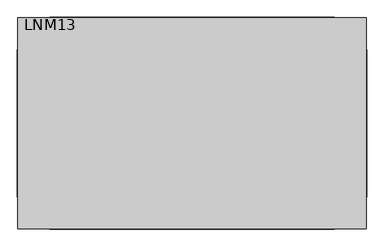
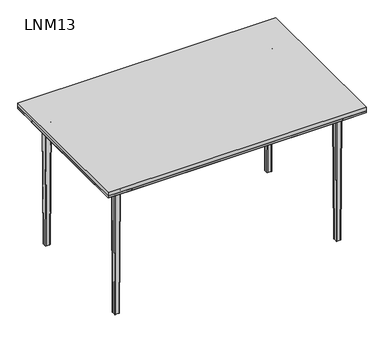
"""IFC4 building model written with IfcOpenShell, lengths in millimetres: furniture geometry, Contact Desks and Operative Twin Desks : LNM13."""

from ifc_helpers import new_model, si_unit, point, frame, origin, place, context, project, spatial, polyline, circle_curve, ellipse_curve, trimmed, outline, extrude, faceted_brep, source, transform, mapped, element, save
from ifc_brep_helpers import plane_surface, cylinder_surface, revolved_surface, extruded_surface, advanced_brep


def lnm13_1a002fa4(model_context):
    return source(origin(), model_context, "Body", "SolidModel", [
        extrude(outline(polyline([(660.0, -280.0), (660.0, -400.0), (540.0, -400.0), (540.0, -280.0), (660.0, -280.0)])), frame((0.0, 0.0, 710.0), z_axis=(0.0, 0.0, 1.0), x_axis=(1.0, 0.0, 0.0)), (0.0, 0.0, 1.0), 10.0),
        extrude(outline(polyline([(660.0, 400.0), (660.0, 280.0), (540.0, 280.0), (540.0, 400.0), (660.0, 400.0)])), frame((0.0, 0.0, 710.0), z_axis=(0.0, 0.0, 1.0), x_axis=(1.0, 0.0, 0.0)), (0.0, 0.0, 1.0), 10.0),
        extrude(outline(polyline([(-540.0, 400.0), (-540.0, 280.0), (-660.0, 280.0), (-660.0, 400.0), (-540.0, 400.0)])), frame((0.0, 0.0, 710.0), z_axis=(0.0, 0.0, 1.0), x_axis=(1.0, 0.0, 0.0)), (0.0, 0.0, 1.0), 10.0),
        extrude(outline(polyline([(-660.0, 280.0), (-540.0, 280.0), (-540.0, -280.0), (-660.0, -280.0), (-660.0, 280.0)])), frame((0.0, 0.0, 710.0), z_axis=(0.0, 0.0, 1.0), x_axis=(1.0, 0.0, 0.0)), (0.0, 0.0, 1.0), 10.0),
        extrude(outline(polyline([(540.0, 280.0), (660.0, 280.0), (660.0, -280.0), (540.0, -280.0), (540.0, 280.0)])), frame((0.0, 0.0, 710.0), z_axis=(0.0, 0.0, 1.0), x_axis=(1.0, 0.0, 0.0)), (0.0, 0.0, 1.0), 10.0),
        extrude(outline(polyline([(540.0, -280.0), (540.0, -400.0), (-540.0, -400.0), (-540.0, -280.0), (540.0, -280.0)])), frame((0.0, 0.0, 710.0), z_axis=(0.0, 0.0, 1.0), x_axis=(1.0, 0.0, 0.0)), (0.0, 0.0, 1.0), 10.0),
        extrude(outline(polyline([(540.0, 400.0), (540.0, 280.0), (-540.0, 280.0), (-540.0, 400.0), (540.0, 400.0)])), frame((0.0, 0.0, 710.0), z_axis=(0.0, 0.0, 1.0), x_axis=(1.0, 0.0, 0.0)), (0.0, 0.0, 1.0), 10.0),
        extrude(outline(polyline([(710.0, 540.0), (675.0, 540.0), (675.0, 588.7129935), (710.0, 661.7129935), (710.0, 540.0)])), frame((0.0, -280.0, 0.0), z_axis=(0.0, 1.0, 0.0), x_axis=(0.0, 0.0, 1.0)), (0.0, 0.0, 1.0), 560.0),
        extrude(outline(polyline([(710.0, -540.0), (710.0, -661.7129935), (675.0, -588.7129935), (675.0, -540.0), (710.0, -540.0)])), frame((0.0, -280.0, 0.0), z_axis=(0.0, 1.0, 0.0), x_axis=(0.0, 0.0, 1.0)), (0.0, 0.0, 1.0), 560.0),
        extrude(outline(polyline([(280.0, 710.0), (401.7129935, 710.0), (328.7129935, 675.0), (280.0, 675.0), (280.0, 710.0)])), frame((-540.0, 0.0, 0.0), z_axis=(1.0, 0.0, 0.0), x_axis=(0.0, 1.0, 0.0)), (0.0, 0.0, 1.0), 1080.0),
        extrude(outline(polyline([(-280.0, 710.0), (-280.0, 675.0), (-328.7129935, 675.0), (-401.7129935, 710.0), (-280.0, 710.0)])), frame((-540.0, 0.0, 0.0), z_axis=(1.0, 0.0, 0.0), x_axis=(0.0, 1.0, 0.0)), (0.0, 0.0, 1.0), 1080.0),
        faceted_brep([(-540.0, 280.0, 710.0), (-540.0, 400.0, 710.0), (-660.0, 400.0, 710.0), (-660.0, 280.0, 710.0), (-540.0, 280.0, 675.0), (-587.0, 280.0, 675.0), (-587.0, 327.0, 675.0), (-540.0, 327.0, 675.0)], [[[0, 1, 2, 3]], [[4, 5, 6, 7]], [[1, 0, 4, 7]], [[0, 3, 5, 4]], [[6, 2, 1, 7]], [[2, 6, 5, 3]]]),
        advanced_brep(
        [(-547.0, 295.0, 675.0), (-547.0, 319.0, 675.0), (-555.0, 327.0, 675.0), (-579.0, 327.0, 675.0), (-587.0, 319.0, 675.0), (-587.0, 295.0, 675.0), (-579.0, 287.0, 675.0), (-555.0, 287.0, 675.0), (-579.0, 292.0, 665.0), (-582.0, 295.0, 665.0), (-582.0, 319.0, 665.0), (-579.0, 322.0, 665.0), (-555.0, 322.0, 665.0), (-552.0, 319.0, 665.0), (-552.0, 295.0, 665.0), (-555.0, 292.0, 665.0), (-547.0, 295.0, 672.0), (-547.0, 319.0, 672.0), (-555.0, 327.0, 672.0), (-579.0, 327.0, 672.0), (-587.0, 319.0, 672.0), (-587.0, 295.0, 672.0), (-579.0, 287.0, 672.0), (-555.0, 287.0, 672.0)],
        [
            (0, 1),
            (1, 2, circle_curve(frame((-555.0, 319.0, 675.0), z_axis=(0.0, 0.0, 1.0), x_axis=(0.0, -1.0000000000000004, 0.0)), 8.0)),
            (2, 3),
            (3, 4, circle_curve(frame((-579.0, 319.0, 675.0), z_axis=(0.0, 0.0, 1.0), x_axis=(0.0, -1.0000000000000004, 0.0)), 8.0)),
            (4, 5),
            (5, 6, circle_curve(frame((-579.0, 295.0, 675.0), z_axis=(0.0, 0.0, 1.0), x_axis=(0.0, -1.0000000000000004, 0.0)), 8.0)),
            (6, 7),
            (7, 0, circle_curve(frame((-555.0, 295.0, 675.0), z_axis=(0.0, 0.0, 1.0), x_axis=(0.0, -1.0000000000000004, 0.0)), 8.0)),
            (8, 9, circle_curve(frame((-579.0, 295.0, 665.0), z_axis=(0.0, 0.0, -1.0), x_axis=(0.0, -1.0000000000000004, 0.0)), 3.0)),
            (9, 10),
            (10, 11, circle_curve(frame((-579.0, 319.0, 665.0), z_axis=(0.0, 0.0, -1.0), x_axis=(-1.0000000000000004, 0.0, 0.0)), 3.0)),
            (11, 12),
            (12, 13, circle_curve(frame((-555.0, 319.0, 665.0), z_axis=(0.0, 0.0, -1.0), x_axis=(0.0, 1.0000000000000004, 0.0)), 3.0)),
            (13, 14),
            (14, 15, circle_curve(frame((-555.0, 295.0, 665.0), z_axis=(0.0, 0.0, -1.0), x_axis=(1.0000000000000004, 0.0, 0.0)), 3.0)),
            (15, 8),
            (0, 16),
            (16, 17),
            (17, 1),
            (17, 18, circle_curve(frame((-555.0, 319.0, 672.0), z_axis=(0.0, 0.0, 1.0), x_axis=(0.0, -1.0000000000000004, 0.0)), 8.0)),
            (18, 2),
            (18, 19),
            (19, 3),
            (19, 20, circle_curve(frame((-579.0, 319.0, 672.0), z_axis=(0.0, 0.0, 1.0), x_axis=(0.0, -1.0000000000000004, 0.0)), 8.0)),
            (20, 4),
            (20, 21),
            (21, 5),
            (21, 22, circle_curve(frame((-579.0, 295.0, 672.0), z_axis=(0.0, 0.0, 1.0), x_axis=(0.0, -1.0000000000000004, 0.0)), 8.0)),
            (22, 6),
            (22, 23),
            (23, 7),
            (23, 16, circle_curve(frame((-555.0, 295.0, 672.0), z_axis=(0.0, 0.0, 1.0), x_axis=(0.0, -1.0000000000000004, 0.0)), 8.0)),
            (21, 9, circle_curve(frame((-590.9600528, 295.0, 663.8856766), z_axis=(0.0, 1.0000000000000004, 0.0), x_axis=(-1.0000000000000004, 0.0, 0.0)), 9.0290787)),
            (8, 22, circle_curve(frame((-579.0, 283.0399472, 663.8856766), z_axis=(1.0000000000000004, 0.0, 0.0), x_axis=(0.0, -1.0000000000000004, 0.0)), 9.0290787)),
            (20, 10, circle_curve(frame((-590.9600528, 319.0, 663.8856766), z_axis=(0.0, 1.0, 0.0), x_axis=(-1.0000000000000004, 0.0, 0.0)), 9.0290787)),
            (19, 11, circle_curve(frame((-579.0, 330.9600528, 663.8856766), z_axis=(1.0000000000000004, 0.0, 0.0), x_axis=(0.0, 1.0000000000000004, 0.0)), 9.0290787)),
            (18, 12, circle_curve(frame((-555.0, 330.9600528, 663.8856766), z_axis=(1.0, 0.0, 0.0), x_axis=(0.0, 1.0000000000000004, 0.0)), 9.0290787)),
            (17, 13, circle_curve(frame((-543.0399472, 319.0, 663.8856766), z_axis=(0.0, -1.0000000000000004, 0.0), x_axis=(1.0000000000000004, 0.0, 0.0)), 9.0290787)),
            (16, 14, circle_curve(frame((-543.0399472, 295.0, 663.8856766), z_axis=(0.0, -1.0, 0.0), x_axis=(1.0000000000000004, 0.0, 0.0)), 9.0290787)),
            (23, 15, circle_curve(frame((-555.0, 283.0399472, 663.8856766), z_axis=(-1.0000000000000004, 0.0, 0.0), x_axis=(0.0, -1.0000000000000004, 0.0)), 9.0290787)),
        ],
        [
            plane_surface(frame((-547.0, 980.663284, 675.0), z_axis=(0.0, 0.0, 1.0), x_axis=(0.0, 1.0, 0.0))),
            plane_surface(frame((-547.0, 980.663284, 665.0), z_axis=(0.0, 0.0, -1.0), x_axis=(0.0, -1.0, 0.0))),
            plane_surface(frame((-547.0, 295.0, 675.0), z_axis=(1.0, 0.0, 0.0), x_axis=(0.0, 0.0, -1.0))),
            cylinder_surface(frame((-555.0, 319.0, 665.0), z_axis=(0.0, 0.0, 1.0), x_axis=(0.0, -1.0000000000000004, 0.0)), 8.0),
            plane_surface(frame((-555.0, 327.0, 675.0), z_axis=(0.0, 1.0, 0.0), x_axis=(0.0, 0.0, -1.0))),
            cylinder_surface(frame((-579.0, 319.0, 665.0), z_axis=(0.0, 0.0, 1.0), x_axis=(0.0, -1.0000000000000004, 0.0)), 8.0),
            plane_surface(frame((-587.0, 319.0, 675.0), z_axis=(-1.0, 0.0, 0.0), x_axis=(0.0, 0.0, -1.0))),
            cylinder_surface(frame((-579.0, 295.0, 665.0), z_axis=(0.0, 0.0, 1.0), x_axis=(0.0, -1.0000000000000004, 0.0)), 8.0),
            plane_surface(frame((-579.0, 287.0, 675.0), z_axis=(0.0, -1.0, 0.0), x_axis=(0.0, 0.0, -1.0))),
            cylinder_surface(frame((-555.0, 295.0, 665.0), z_axis=(0.0, 0.0, 1.0), x_axis=(0.0, -1.0000000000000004, 0.0)), 8.0),
            revolved_surface(trimmed(ellipse_curve(frame((-579.0, 283.0399472, 663.8856766), z_axis=(-1.0000000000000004, 0.0, 0.0), x_axis=(0.0, -1.0000000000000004, 0.0)), 9.0290787, 9.0290787), [point((-579.0, 287.0, 672.0))], [point((-579.0, 292.0, 665.0))], True, "CARTESIAN"), (-579.0, 295.0, 0.0), (0.0, 0.0, -1.0)),
            revolved_surface(polyline([(-599.9891315, 295.0, 663.8856766), (-599.9891315, 319.0, 663.8856766)]), (-590.9600528, 295.0, 663.8856766), (0.0, -1.0000000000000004, 0.0)),
            revolved_surface(trimmed(ellipse_curve(frame((-590.9600528, 319.0, 663.8856766), z_axis=(0.0, 1.0000000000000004, 0.0), x_axis=(-1.0000000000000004, 0.0, 0.0)), 9.0290787, 9.0290787), [point((-587.0, 319.0, 672.0))], [point((-582.0, 319.0, 665.0))], True, "CARTESIAN"), (-579.0, 319.0, 0.0), (0.0, 0.0, -1.0)),
            revolved_surface(polyline([(-579.0, 339.98913150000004, 663.8856766), (-555.0, 339.98913150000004, 663.8856766)]), (-579.0, 330.9600528, 663.8856766), (-1.0000000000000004, 0.0, 0.0)),
            revolved_surface(trimmed(ellipse_curve(frame((-555.0, 330.9600528, 663.8856766), z_axis=(1.0000000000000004, 0.0, 0.0), x_axis=(0.0, 1.0000000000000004, 0.0)), 9.0290787, 9.0290787), [point((-555.0, 327.0, 672.0))], [point((-555.0, 322.0, 665.0))], True, "CARTESIAN"), (-555.0, 319.0, 0.0), (0.0, 0.0, -1.0)),
            revolved_surface(polyline([(-534.0108685, 319.0, 663.8856766), (-534.0108685, 295.0, 663.8856766)]), (-543.0399472, 319.0, 663.8856766), (0.0, 1.0000000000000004, 0.0)),
            revolved_surface(trimmed(ellipse_curve(frame((-543.0399472, 295.0, 663.8856766), z_axis=(0.0, -1.0000000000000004, 0.0), x_axis=(1.0000000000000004, 0.0, 0.0)), 9.0290787, 9.0290787), [point((-547.0, 295.0, 672.0))], [point((-552.0, 295.0, 665.0))], True, "CARTESIAN"), (-555.0, 295.0, 0.0), (0.0, 0.0, -1.0)),
            revolved_surface(polyline([(-555.0, 274.01086849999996, 663.8856766), (-579.0, 274.01086849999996, 663.8856766)]), (-555.0, 283.0399472, 663.8856766), (1.0000000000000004, 0.0, 0.0)),
        ],
        [
            (0, [[1, 2, 3, 4, 5, 6, 7, 8]]),
            (1, [[9, 10, 11, 12, 13, 14, 15, 16]]),
            (2, [[-1, 17, 18, 19]]),
            (3, [[-2, -19, 20, 21]]),
            (4, [[-3, -21, 22, 23]]),
            (5, [[-4, -23, 24, 25]]),
            (6, [[-5, -25, 26, 27]]),
            (7, [[-6, -27, 28, 29]]),
            (8, [[-7, -29, 30, 31]]),
            (9, [[-8, -31, 32, -17]]),
            (10, [[33, -9, 34, -28]]),
            (11, [[-33, -26, 35, -10]]),
            (12, [[-35, -24, 36, -11]]),
            (13, [[-36, -22, 37, -12]]),
            (14, [[-37, -20, 38, -13]]),
            (15, [[-38, -18, 39, -14]]),
            (16, [[-39, -32, 40, -15]]),
            (17, [[-34, -16, -40, -30]]),
        ],
    ),
        advanced_brep(
        [(-579.0, 322.0, 665.0), (-582.0, 319.0, 665.0), (-582.0, 295.0, 665.0), (-579.0, 292.0, 665.0), (-555.0, 292.0, 665.0), (-552.0, 295.0, 665.0), (-552.0, 319.0, 665.0), (-555.0, 322.0, 665.0), (-576.0, 319.0, 0.0), (-558.0, 319.0, 0.0), (-555.0, 316.0, 0.0), (-555.0, 298.0, 0.0), (-558.0, 295.0, 0.0), (-576.0, 295.0, 0.0), (-579.0, 298.0, 0.0), (-579.0, 316.0, 0.0)],
        [
            (0, 1, circle_curve(frame((-579.0, 319.0, 665.0), z_axis=(0.0, 0.0, 1.0), x_axis=(0.0, -1.0, 0.0)), 3.0)),
            (1, 2),
            (2, 3, circle_curve(frame((-579.0, 295.0, 665.0), z_axis=(0.0, 0.0, 1.0), x_axis=(0.0, -1.0, 0.0)), 3.0)),
            (3, 4),
            (4, 5, circle_curve(frame((-555.0, 295.0, 665.0), z_axis=(0.0, 0.0, 1.0), x_axis=(0.0, -1.0, 0.0)), 3.0)),
            (5, 6),
            (6, 7, circle_curve(frame((-555.0, 319.0, 665.0), z_axis=(0.0, 0.0, 1.0), x_axis=(0.0, -1.0, 0.0)), 3.0)),
            (7, 0),
            (8, 9),
            (9, 10, circle_curve(frame((-558.0, 316.0, 0.0), z_axis=(0.0, 0.0, -1.0), x_axis=(0.0, -1.0, 0.0)), 3.0)),
            (10, 11),
            (11, 12, circle_curve(frame((-558.0, 298.0, 0.0), z_axis=(0.0, 0.0, -1.0), x_axis=(0.0, -1.0, 0.0)), 3.0)),
            (12, 13),
            (13, 14, circle_curve(frame((-576.0, 298.0, 0.0), z_axis=(0.0, 0.0, -1.0), x_axis=(0.0, -1.0, 0.0)), 3.0)),
            (14, 15),
            (15, 8, circle_curve(frame((-576.0, 316.0, 0.0), z_axis=(0.0, 0.0, -1.0), x_axis=(0.0, -1.0, 0.0)), 3.0)),
            (15, 1),
            (0, 8),
            (14, 2),
            (13, 3),
            (12, 4),
            (11, 5),
            (10, 6),
            (9, 7),
        ],
        [
            plane_surface(frame((-567.0, 307.0, 665.0), z_axis=(0.0, 0.0, 1.0), x_axis=(0.0, 1.0, 0.0))),
            plane_surface(frame((-567.0, 307.0, 0.0), z_axis=(0.0, 0.0, -1.0), x_axis=(0.0, 1.0, 0.0))),
            extruded_surface(trimmed(circle_curve(frame((-576.0, 316.0, 0.0), z_axis=(0.0, 0.0, 1.0), x_axis=(0.0, -1.0, 0.0)), 3.0), [point((-576.0, 319.0, 0.0))], [point((-579.0, 316.0, 0.0))], True, "CARTESIAN"), (-3.0, 3.0, 665.0), 665.0135336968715),
            plane_surface(frame((-579.0, 307.0, 0.0), z_axis=(-0.9999898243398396, 0.0, -0.004511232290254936), x_axis=(0.0, -1.0, 0.0))),
            extruded_surface(trimmed(circle_curve(frame((-576.0, 298.0, 0.0), z_axis=(0.0, 0.0, 1.0), x_axis=(0.0, -1.0, 0.0)), 3.0), [point((-579.0, 298.0, 0.0))], [point((-576.0, 295.0, 0.0))], True, "CARTESIAN"), (-3.0, -3.0, 665.0), 665.0135336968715),
            plane_surface(frame((-567.0, 295.0, 0.0), z_axis=(0.0, -0.9999898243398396, -0.004511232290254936), x_axis=(1.0, 0.0, 0.0))),
            extruded_surface(trimmed(circle_curve(frame((-558.0, 298.0, 0.0), z_axis=(0.0, 0.0, 1.0), x_axis=(0.0, -1.0, 0.0)), 3.0), [point((-558.0, 295.0, 0.0))], [point((-555.0, 298.0, 0.0))], True, "CARTESIAN"), (3.0, -3.0, 665.0), 665.0135336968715),
            plane_surface(frame((-555.0, 307.0, 0.0), z_axis=(0.9999898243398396, 0.0, -0.004511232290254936), x_axis=(0.0, 1.0, 0.0))),
            extruded_surface(trimmed(circle_curve(frame((-558.0, 316.0, 0.0), z_axis=(0.0, 0.0, 1.0), x_axis=(0.0, -1.0, 0.0)), 3.0), [point((-555.0, 316.0, 0.0))], [point((-558.0, 319.0, 0.0))], True, "CARTESIAN"), (3.0, 3.0, 665.0), 665.0135336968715),
            plane_surface(frame((-567.0, 319.0, 0.0), z_axis=(0.0, 0.9999898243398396, -0.004511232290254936), x_axis=(-1.0, 0.0, 0.0))),
        ],
        [
            (0, [[1, 2, 3, 4, 5, 6, 7, 8]]),
            (1, [[9, 10, 11, 12, 13, 14, 15, 16]]),
            (2, [[-16, 17, -1, 18]]),
            (3, [[-15, 19, -2, -17]]),
            (4, [[-14, 20, -3, -19]]),
            (5, [[-13, 21, -4, -20]]),
            (6, [[-12, 22, -5, -21]]),
            (7, [[-11, 23, -6, -22]]),
            (8, [[-10, 24, -7, -23]]),
            (9, [[-9, -18, -8, -24]]),
        ],
    ),
        faceted_brep([(540.0, -280.0, 710.0), (540.0, -400.0, 710.0), (660.0, -400.0, 710.0), (660.0, -280.0, 710.0), (540.0, -280.0, 675.0), (587.0, -280.0, 675.0), (587.0, -327.0, 675.0), (540.0, -327.0, 675.0)], [[[0, 1, 2, 3]], [[4, 5, 6, 7]], [[1, 0, 4, 7]], [[0, 3, 5, 4]], [[6, 2, 1, 7]], [[2, 6, 5, 3]]]),
        advanced_brep(
        [(547.0, -295.0, 675.0), (547.0, -319.0, 675.0), (555.0, -327.0, 675.0), (579.0, -327.0, 675.0), (587.0, -319.0, 675.0), (587.0, -295.0, 675.0), (579.0, -287.0, 675.0), (555.0, -287.0, 675.0), (579.0, -292.0, 665.0), (582.0, -295.0, 665.0), (582.0, -319.0, 665.0), (579.0, -322.0, 665.0), (555.0, -322.0, 665.0), (552.0, -319.0, 665.0), (552.0, -295.0, 665.0), (555.0, -292.0, 665.0), (547.0, -295.0, 672.0), (547.0, -319.0, 672.0), (555.0, -327.0, 672.0), (579.0, -327.0, 672.0), (587.0, -319.0, 672.0), (587.0, -295.0, 672.0), (579.0, -287.0, 672.0), (555.0, -287.0, 672.0)],
        [
            (0, 1),
            (1, 2, circle_curve(frame((555.0, -319.0, 675.0), z_axis=(0.0, 0.0, 1.0), x_axis=(0.0, 1.0000000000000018, 0.0)), 8.0)),
            (2, 3),
            (3, 4, circle_curve(frame((579.0, -319.0, 675.0), z_axis=(0.0, 0.0, 1.0), x_axis=(0.0, 1.0000000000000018, 0.0)), 8.0)),
            (4, 5),
            (5, 6, circle_curve(frame((579.0, -295.0, 675.0), z_axis=(0.0, 0.0, 1.0), x_axis=(0.0, 1.0000000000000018, 0.0)), 8.0)),
            (6, 7),
            (7, 0, circle_curve(frame((555.0, -295.0, 675.0), z_axis=(0.0, 0.0, 1.0), x_axis=(0.0, 1.0000000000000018, 0.0)), 8.0)),
            (8, 9, circle_curve(frame((579.0, -295.0, 665.0), z_axis=(0.0, 0.0, -1.0), x_axis=(0.0, 1.0000000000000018, 0.0)), 3.0)),
            (9, 10),
            (10, 11, circle_curve(frame((579.0, -319.0, 665.0), z_axis=(0.0, 0.0, -1.0), x_axis=(1.0000000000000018, 0.0, 0.0)), 3.0)),
            (11, 12),
            (12, 13, circle_curve(frame((555.0, -319.0, 665.0), z_axis=(0.0, 0.0, -1.0), x_axis=(0.0, -1.0000000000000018, 0.0)), 3.0)),
            (13, 14),
            (14, 15, circle_curve(frame((555.0, -295.0, 665.0), z_axis=(0.0, 0.0, -1.0), x_axis=(-1.0000000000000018, 0.0, 0.0)), 3.0)),
            (15, 8),
            (0, 16),
            (16, 17),
            (17, 1),
            (17, 18, circle_curve(frame((555.0, -319.0, 672.0), z_axis=(0.0, 0.0, 1.0), x_axis=(0.0, 1.0000000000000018, 0.0)), 8.0)),
            (18, 2),
            (18, 19),
            (19, 3),
            (19, 20, circle_curve(frame((579.0, -319.0, 672.0), z_axis=(0.0, 0.0, 1.0), x_axis=(0.0, 1.0000000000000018, 0.0)), 8.0)),
            (20, 4),
            (20, 21),
            (21, 5),
            (21, 22, circle_curve(frame((579.0, -295.0, 672.0), z_axis=(0.0, 0.0, 1.0), x_axis=(0.0, 1.0000000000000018, 0.0)), 8.0)),
            (22, 6),
            (22, 23),
            (23, 7),
            (23, 16, circle_curve(frame((555.0, -295.0, 672.0), z_axis=(0.0, 0.0, 1.0), x_axis=(0.0, 1.0000000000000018, 0.0)), 8.0)),
            (21, 9, circle_curve(frame((590.9600528, -295.0, 663.8856766), z_axis=(0.0, -1.0000000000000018, 0.0), x_axis=(1.0000000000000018, 0.0, 0.0)), 9.0290787)),
            (8, 22, circle_curve(frame((579.0, -283.0399472, 663.8856766), z_axis=(-1.0000000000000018, 0.0, 0.0), x_axis=(0.0, 1.0000000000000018, 0.0)), 9.0290787)),
            (20, 10, circle_curve(frame((590.9600528, -319.0, 663.8856766), z_axis=(0.0, -1.0, 0.0), x_axis=(1.0000000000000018, 0.0, 0.0)), 9.0290787)),
            (19, 11, circle_curve(frame((579.0, -330.9600528, 663.8856766), z_axis=(-1.0000000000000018, 0.0, 0.0), x_axis=(0.0, -1.0000000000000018, 0.0)), 9.0290787)),
            (18, 12, circle_curve(frame((555.0, -330.9600528, 663.8856766), z_axis=(-1.0, 0.0, 0.0), x_axis=(0.0, -1.0000000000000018, 0.0)), 9.0290787)),
            (17, 13, circle_curve(frame((543.0399472, -319.0, 663.8856766), z_axis=(0.0, 1.0000000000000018, 0.0), x_axis=(-1.0000000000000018, 0.0, 0.0)), 9.0290787)),
            (16, 14, circle_curve(frame((543.0399472, -295.0, 663.8856766), z_axis=(0.0, 1.0, 0.0), x_axis=(-1.0000000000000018, 0.0, 0.0)), 9.0290787)),
            (23, 15, circle_curve(frame((555.0, -283.0399472, 663.8856766), z_axis=(1.0000000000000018, 0.0, 0.0), x_axis=(0.0, 1.0000000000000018, 0.0)), 9.0290787)),
        ],
        [
            plane_surface(frame((547.0, -980.663284, 675.0), z_axis=(0.0, 0.0, 1.0), x_axis=(0.0, -1.0, 0.0))),
            plane_surface(frame((547.0, -980.663284, 665.0), z_axis=(0.0, 0.0, -1.0), x_axis=(0.0, 1.0, 0.0))),
            plane_surface(frame((547.0, -295.0, 675.0), z_axis=(-1.0, 0.0, 0.0), x_axis=(0.0, 0.0, -1.0))),
            cylinder_surface(frame((555.0, -319.0, 665.0), z_axis=(0.0, 0.0, 1.0), x_axis=(0.0, 1.0000000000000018, 0.0)), 8.0),
            plane_surface(frame((555.0, -327.0, 675.0), z_axis=(0.0, -1.0, 0.0), x_axis=(0.0, 0.0, -1.0))),
            cylinder_surface(frame((579.0, -319.0, 665.0), z_axis=(0.0, 0.0, 1.0), x_axis=(0.0, 1.0000000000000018, 0.0)), 8.0),
            plane_surface(frame((587.0, -319.0, 675.0), z_axis=(1.0, 0.0, 0.0), x_axis=(0.0, 0.0, -1.0))),
            cylinder_surface(frame((579.0, -295.0, 665.0), z_axis=(0.0, 0.0, 1.0), x_axis=(0.0, 1.0000000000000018, 0.0)), 8.0),
            plane_surface(frame((579.0, -287.0, 675.0), z_axis=(0.0, 1.0, 0.0), x_axis=(0.0, 0.0, -1.0))),
            cylinder_surface(frame((555.0, -295.0, 665.0), z_axis=(0.0, 0.0, 1.0), x_axis=(0.0, 1.0000000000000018, 0.0)), 8.0),
            revolved_surface(trimmed(ellipse_curve(frame((579.0, -283.0399472, 663.8856766), z_axis=(1.0000000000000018, 0.0, 0.0), x_axis=(0.0, 1.0000000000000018, 0.0)), 9.0290787, 9.0290787), [point((579.0, -287.0, 672.0))], [point((579.0, -292.0, 665.0))], True, "CARTESIAN"), (579.0, -295.0, 0.0), (0.0, 0.0, -1.0)),
            revolved_surface(polyline([(599.9891315, -295.0, 663.8856766), (599.9891315, -319.0000000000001, 663.8856766)]), (590.9600528, -295.0, 663.8856766), (0.0, 1.0000000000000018, 0.0)),
            revolved_surface(trimmed(ellipse_curve(frame((590.9600528, -319.0, 663.8856766), z_axis=(0.0, -1.0000000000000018, 0.0), x_axis=(1.0000000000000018, 0.0, 0.0)), 9.0290787, 9.0290787), [point((587.0, -319.0, 672.0))], [point((582.0, -319.0, 665.0))], True, "CARTESIAN"), (579.0, -319.0, 0.0), (0.0, 0.0, -1.0)),
            revolved_surface(polyline([(579.0, -339.98913150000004, 663.8856766), (554.9999999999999, -339.98913150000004, 663.8856766)]), (579.0, -330.9600528, 663.8856766), (1.0000000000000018, 0.0, 0.0)),
            revolved_surface(trimmed(ellipse_curve(frame((555.0, -330.9600528, 663.8856766), z_axis=(-1.0000000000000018, 0.0, 0.0), x_axis=(0.0, -1.0000000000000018, 0.0)), 9.0290787, 9.0290787), [point((555.0, -327.0, 672.0))], [point((555.0, -322.0, 665.0))], True, "CARTESIAN"), (555.0, -319.0, 0.0), (0.0, 0.0, -1.0)),
            revolved_surface(polyline([(534.0108685, -319.0, 663.8856766), (534.0108685, -294.9999999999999, 663.8856766)]), (543.0399472, -319.0, 663.8856766), (0.0, -1.0000000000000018, 0.0)),
            revolved_surface(trimmed(ellipse_curve(frame((543.0399472, -295.0, 663.8856766), z_axis=(0.0, 1.0000000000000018, 0.0), x_axis=(-1.0000000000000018, 0.0, 0.0)), 9.0290787, 9.0290787), [point((547.0, -295.0, 672.0))], [point((552.0, -295.0, 665.0))], True, "CARTESIAN"), (555.0, -295.0, 0.0), (0.0, 0.0, -1.0)),
            revolved_surface(polyline([(555.0, -274.01086849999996, 663.8856766), (579.0000000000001, -274.01086849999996, 663.8856766)]), (555.0, -283.0399472, 663.8856766), (-1.0000000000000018, 0.0, 0.0)),
        ],
        [
            (0, [[1, 2, 3, 4, 5, 6, 7, 8]]),
            (1, [[9, 10, 11, 12, 13, 14, 15, 16]]),
            (2, [[-1, 17, 18, 19]]),
            (3, [[-2, -19, 20, 21]]),
            (4, [[-3, -21, 22, 23]]),
            (5, [[-4, -23, 24, 25]]),
            (6, [[-5, -25, 26, 27]]),
            (7, [[-6, -27, 28, 29]]),
            (8, [[-7, -29, 30, 31]]),
            (9, [[-8, -31, 32, -17]]),
            (10, [[33, -9, 34, -28]]),
            (11, [[-33, -26, 35, -10]]),
            (12, [[-35, -24, 36, -11]]),
            (13, [[-36, -22, 37, -12]]),
            (14, [[-37, -20, 38, -13]]),
            (15, [[-38, -18, 39, -14]]),
            (16, [[-39, -32, 40, -15]]),
            (17, [[-34, -16, -40, -30]]),
        ],
    ),
        advanced_brep(
        [(579.0, -322.0, 665.0), (582.0, -319.0, 665.0), (582.0, -295.0, 665.0), (579.0, -292.0, 665.0), (555.0, -292.0, 665.0), (552.0, -295.0, 665.0), (552.0, -319.0, 665.0), (555.0, -322.0, 665.0), (576.0, -319.0, 0.0), (558.0, -319.0, 0.0), (555.0, -316.0, 0.0), (555.0, -298.0, 0.0), (558.0, -295.0, 0.0), (576.0, -295.0, 0.0), (579.0, -298.0, 0.0), (579.0, -316.0, 0.0)],
        [
            (0, 1, circle_curve(frame((579.0, -319.0, 665.0), z_axis=(0.0, 0.0, 1.0), x_axis=(0.0, 1.0, 0.0)), 3.0)),
            (1, 2),
            (2, 3, circle_curve(frame((579.0, -295.0, 665.0), z_axis=(0.0, 0.0, 1.0), x_axis=(0.0, 1.0, 0.0)), 3.0)),
            (3, 4),
            (4, 5, circle_curve(frame((555.0, -295.0, 665.0), z_axis=(0.0, 0.0, 1.0), x_axis=(0.0, 1.0, 0.0)), 3.0)),
            (5, 6),
            (6, 7, circle_curve(frame((555.0, -319.0, 665.0), z_axis=(0.0, 0.0, 1.0), x_axis=(0.0, 1.0, 0.0)), 3.0)),
            (7, 0),
            (8, 9),
            (9, 10, circle_curve(frame((558.0, -316.0, 0.0), z_axis=(0.0, 0.0, -1.0), x_axis=(0.0, 1.0, 0.0)), 3.0)),
            (10, 11),
            (11, 12, circle_curve(frame((558.0, -298.0, 0.0), z_axis=(0.0, 0.0, -1.0), x_axis=(0.0, 1.0, 0.0)), 3.0)),
            (12, 13),
            (13, 14, circle_curve(frame((576.0, -298.0, 0.0), z_axis=(0.0, 0.0, -1.0), x_axis=(0.0, 1.0, 0.0)), 3.0)),
            (14, 15),
            (15, 8, circle_curve(frame((576.0, -316.0, 0.0), z_axis=(0.0, 0.0, -1.0), x_axis=(0.0, 1.0, 0.0)), 3.0)),
            (15, 1),
            (0, 8),
            (14, 2),
            (13, 3),
            (12, 4),
            (11, 5),
            (10, 6),
            (9, 7),
        ],
        [
            plane_surface(frame((567.0, -307.0, 665.0), z_axis=(0.0, 0.0, 1.0), x_axis=(0.0, -1.0, 0.0))),
            plane_surface(frame((567.0, -307.0, 0.0), z_axis=(0.0, 0.0, -1.0), x_axis=(0.0, -1.0, 0.0))),
            extruded_surface(trimmed(circle_curve(frame((576.0, -316.0, 0.0), z_axis=(0.0, 0.0, 1.0), x_axis=(0.0, 1.0, 0.0)), 3.0), [point((576.0, -319.0, 0.0))], [point((579.0, -316.0, 0.0))], True, "CARTESIAN"), (3.0, -3.0, 665.0), 665.0135336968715),
            plane_surface(frame((579.0, -307.0, 0.0), z_axis=(0.9999898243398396, 0.0, -0.004511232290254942), x_axis=(0.0, 1.0, 0.0))),
            extruded_surface(trimmed(circle_curve(frame((576.0, -298.0, 0.0), z_axis=(0.0, 0.0, 1.0), x_axis=(0.0, 1.0, 0.0)), 3.0), [point((579.0, -298.0, 0.0))], [point((576.0, -295.0, 0.0))], True, "CARTESIAN"), (3.0, 3.0, 665.0), 665.0135336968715),
            plane_surface(frame((567.0, -295.0, 0.0), z_axis=(0.0, 0.9999898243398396, -0.004511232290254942), x_axis=(-1.0, 0.0, 0.0))),
            extruded_surface(trimmed(circle_curve(frame((558.0, -298.0, 0.0), z_axis=(0.0, 0.0, 1.0), x_axis=(0.0, 1.0, 0.0)), 3.0), [point((558.0, -295.0, 0.0))], [point((555.0, -298.0, 0.0))], True, "CARTESIAN"), (-3.0, 3.0, 665.0), 665.0135336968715),
            plane_surface(frame((555.0, -307.0, 0.0), z_axis=(-0.9999898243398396, 0.0, -0.004511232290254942), x_axis=(0.0, -1.0, 0.0))),
            extruded_surface(trimmed(circle_curve(frame((558.0, -316.0, 0.0), z_axis=(0.0, 0.0, 1.0), x_axis=(0.0, 1.0, 0.0)), 3.0), [point((555.0, -316.0, 0.0))], [point((558.0, -319.0, 0.0))], True, "CARTESIAN"), (-3.0, -3.0, 665.0), 665.0135336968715),
            plane_surface(frame((567.0, -319.0, 0.0), z_axis=(0.0, -0.9999898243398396, -0.004511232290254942), x_axis=(1.0, 0.0, 0.0))),
        ],
        [
            (0, [[1, 2, 3, 4, 5, 6, 7, 8]]),
            (1, [[9, 10, 11, 12, 13, 14, 15, 16]]),
            (2, [[-16, 17, -1, 18]]),
            (3, [[-15, 19, -2, -17]]),
            (4, [[-14, 20, -3, -19]]),
            (5, [[-13, 21, -4, -20]]),
            (6, [[-12, 22, -5, -21]]),
            (7, [[-11, 23, -6, -22]]),
            (8, [[-10, 24, -7, -23]]),
            (9, [[-9, -18, -8, -24]]),
        ],
    ),
        faceted_brep([(540.0, 280.0, 710.0), (660.0, 280.0, 710.0), (660.0, 400.0, 710.0), (540.0, 400.0, 710.0), (540.0, 280.0, 675.0), (540.0, 327.0, 675.0), (587.0, 327.0, 675.0), (587.0, 280.0, 675.0)], [[[0, 1, 2, 3]], [[4, 5, 6, 7]], [[1, 0, 4, 7]], [[0, 3, 5, 4]], [[6, 2, 1, 7]], [[2, 6, 5, 3]]]),
        advanced_brep(
        [(555.0, 287.0, 675.0), (579.0, 287.0, 675.0), (587.0, 295.0, 675.0), (587.0, 319.0, 675.0), (579.0, 327.0, 675.0), (555.0, 327.0, 675.0), (547.0, 319.0, 675.0), (547.0, 295.0, 675.0), (552.0, 319.0, 665.0), (555.0, 322.0, 665.0), (579.0, 322.0, 665.0), (582.0, 319.0, 665.0), (582.0, 295.0, 665.0), (579.0, 292.0, 665.0), (555.0, 292.0, 665.0), (552.0, 295.0, 665.0), (555.0, 287.0, 672.0), (579.0, 287.0, 672.0), (587.0, 295.0, 672.0), (587.0, 319.0, 672.0), (579.0, 327.0, 672.0), (555.0, 327.0, 672.0), (547.0, 319.0, 672.0), (547.0, 295.0, 672.0)],
        [
            (0, 1),
            (1, 2, circle_curve(frame((579.0, 295.0, 675.0), z_axis=(0.0, 0.0, 1.0), x_axis=(-1.0000000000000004, 0.0, 0.0)), 8.0)),
            (2, 3),
            (3, 4, circle_curve(frame((579.0, 319.0, 675.0), z_axis=(0.0, 0.0, 1.0), x_axis=(-1.0000000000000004, 0.0, 0.0)), 8.0)),
            (4, 5),
            (5, 6, circle_curve(frame((555.0, 319.0, 675.0), z_axis=(0.0, 0.0, 1.0), x_axis=(-1.0000000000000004, 0.0, 0.0)), 8.0)),
            (6, 7),
            (7, 0, circle_curve(frame((555.0, 295.0, 675.0), z_axis=(0.0, 0.0, 1.0), x_axis=(-1.0000000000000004, 0.0, 0.0)), 8.0)),
            (8, 9, circle_curve(frame((555.0, 319.0, 665.0), z_axis=(0.0, 0.0, -1.0), x_axis=(-1.0000000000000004, 0.0, 0.0)), 3.0)),
            (9, 10),
            (10, 11, circle_curve(frame((579.0, 319.0, 665.0), z_axis=(0.0, 0.0, -1.0), x_axis=(0.0, 1.0000000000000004, 0.0)), 3.0)),
            (11, 12),
            (12, 13, circle_curve(frame((579.0, 295.0, 665.0), z_axis=(0.0, 0.0, -1.0), x_axis=(1.0000000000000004, 0.0, 0.0)), 3.0)),
            (13, 14),
            (14, 15, circle_curve(frame((555.0, 295.0, 665.0), z_axis=(0.0, 0.0, -1.0), x_axis=(0.0, -1.0000000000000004, 0.0)), 3.0)),
            (15, 8),
            (0, 16),
            (16, 17),
            (17, 1),
            (17, 18, circle_curve(frame((579.0, 295.0, 672.0), z_axis=(0.0, 0.0, 1.0), x_axis=(-1.0000000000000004, 0.0, 0.0)), 8.0)),
            (18, 2),
            (18, 19),
            (19, 3),
            (19, 20, circle_curve(frame((579.0, 319.0, 672.0), z_axis=(0.0, 0.0, 1.0), x_axis=(-1.0000000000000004, 0.0, 0.0)), 8.0)),
            (20, 4),
            (20, 21),
            (21, 5),
            (21, 22, circle_curve(frame((555.0, 319.0, 672.0), z_axis=(0.0, 0.0, 1.0), x_axis=(-1.0000000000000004, 0.0, 0.0)), 8.0)),
            (22, 6),
            (22, 23),
            (23, 7),
            (23, 16, circle_curve(frame((555.0, 295.0, 672.0), z_axis=(0.0, 0.0, 1.0), x_axis=(-1.0000000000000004, 0.0, 0.0)), 8.0)),
            (21, 9, circle_curve(frame((555.0, 330.9600528, 663.8856766), z_axis=(1.0000000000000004, 0.0, 0.0), x_axis=(0.0, 1.0000000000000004, 0.0)), 9.0290787)),
            (8, 22, circle_curve(frame((543.0399472, 319.0, 663.8856766), z_axis=(0.0, -1.0000000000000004, 0.0), x_axis=(-1.0000000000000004, 0.0, 0.0)), 9.0290787)),
            (20, 10, circle_curve(frame((579.0, 330.9600528, 663.8856766), z_axis=(1.0, 0.0, 0.0), x_axis=(0.0, 1.0000000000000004, 0.0)), 9.0290787)),
            (19, 11, circle_curve(frame((590.9600528, 319.0, 663.8856766), z_axis=(0.0, -1.0000000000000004, 0.0), x_axis=(1.0000000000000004, 0.0, 0.0)), 9.0290787)),
            (18, 12, circle_curve(frame((590.9600528, 295.0, 663.8856766), z_axis=(0.0, -1.0, 0.0), x_axis=(1.0000000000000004, 0.0, 0.0)), 9.0290787)),
            (17, 13, circle_curve(frame((579.0, 283.0399472, 663.8856766), z_axis=(-1.0000000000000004, 0.0, 0.0), x_axis=(0.0, -1.0000000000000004, 0.0)), 9.0290787)),
            (16, 14, circle_curve(frame((555.0, 283.0399472, 663.8856766), z_axis=(-1.0, 0.0, 0.0), x_axis=(0.0, -1.0000000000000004, 0.0)), 9.0290787)),
            (23, 15, circle_curve(frame((543.0399472, 295.0, 663.8856766), z_axis=(0.0, 1.0000000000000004, 0.0), x_axis=(-1.0000000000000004, 0.0, 0.0)), 9.0290787)),
        ],
        [
            plane_surface(frame((1240.663284, 287.0, 675.0), z_axis=(0.0, 0.0, 1.0), x_axis=(1.0, 0.0, 0.0))),
            plane_surface(frame((1240.663284, 287.0, 665.0), z_axis=(0.0, 0.0, -1.0), x_axis=(-1.0, 0.0, 0.0))),
            plane_surface(frame((555.0, 287.0, 675.0), z_axis=(0.0, -1.0, 0.0), x_axis=(0.0, 0.0, -1.0))),
            cylinder_surface(frame((579.0, 295.0, 665.0), z_axis=(0.0, 0.0, 1.0), x_axis=(-1.0000000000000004, 0.0, 0.0)), 8.0),
            plane_surface(frame((587.0, 295.0, 675.0), z_axis=(1.0, 0.0, 0.0), x_axis=(0.0, 0.0, -1.0))),
            cylinder_surface(frame((579.0, 319.0, 665.0), z_axis=(0.0, 0.0, 1.0), x_axis=(-1.0000000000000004, 0.0, 0.0)), 8.0),
            plane_surface(frame((579.0, 327.0, 675.0), z_axis=(0.0, 1.0, 0.0), x_axis=(0.0, 0.0, -1.0))),
            cylinder_surface(frame((555.0, 319.0, 665.0), z_axis=(0.0, 0.0, 1.0), x_axis=(-1.0000000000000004, 0.0, 0.0)), 8.0),
            plane_surface(frame((547.0, 319.0, 675.0), z_axis=(-1.0, 0.0, 0.0), x_axis=(0.0, 0.0, -1.0))),
            cylinder_surface(frame((555.0, 295.0, 665.0), z_axis=(0.0, 0.0, 1.0), x_axis=(-1.0000000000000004, 0.0, 0.0)), 8.0),
            revolved_surface(trimmed(ellipse_curve(frame((543.0399472, 319.0, 663.8856766), z_axis=(0.0, 1.0000000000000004, 0.0), x_axis=(-1.0000000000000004, 0.0, 0.0)), 9.0290787, 9.0290787), [point((547.0, 319.0, 672.0))], [point((552.0, 319.0, 665.0))], True, "CARTESIAN"), (555.0, 319.0, 0.0), (0.0, 0.0, -1.0)),
            revolved_surface(polyline([(555.0, 339.98913150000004, 663.8856766), (579.0, 339.98913150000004, 663.8856766)]), (555.0, 330.9600528, 663.8856766), (-1.0000000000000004, 0.0, 0.0)),
            revolved_surface(trimmed(ellipse_curve(frame((579.0, 330.9600528, 663.8856766), z_axis=(1.0000000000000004, 0.0, 0.0), x_axis=(0.0, 1.0000000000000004, 0.0)), 9.0290787, 9.0290787), [point((579.0, 327.0, 672.0))], [point((579.0, 322.0, 665.0))], True, "CARTESIAN"), (579.0, 319.0, 0.0), (0.0, 0.0, -1.0)),
            revolved_surface(polyline([(599.9891315, 319.0, 663.8856766), (599.9891315, 295.0, 663.8856766)]), (590.9600528, 319.0, 663.8856766), (0.0, 1.0000000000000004, 0.0)),
            revolved_surface(trimmed(ellipse_curve(frame((590.9600528, 295.0, 663.8856766), z_axis=(0.0, -1.0000000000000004, 0.0), x_axis=(1.0000000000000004, 0.0, 0.0)), 9.0290787, 9.0290787), [point((587.0, 295.0, 672.0))], [point((582.0, 295.0, 665.0))], True, "CARTESIAN"), (579.0, 295.0, 0.0), (0.0, 0.0, -1.0)),
            revolved_surface(polyline([(579.0, 274.01086849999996, 663.8856766), (555.0, 274.01086849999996, 663.8856766)]), (579.0, 283.0399472, 663.8856766), (1.0000000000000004, 0.0, 0.0)),
            revolved_surface(trimmed(ellipse_curve(frame((555.0, 283.0399472, 663.8856766), z_axis=(-1.0000000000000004, 0.0, 0.0), x_axis=(0.0, -1.0000000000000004, 0.0)), 9.0290787, 9.0290787), [point((555.0, 287.0, 672.0))], [point((555.0, 292.0, 665.0))], True, "CARTESIAN"), (555.0, 295.0, 0.0), (0.0, 0.0, -1.0)),
            revolved_surface(polyline([(534.0108685, 295.0, 663.8856766), (534.0108685, 319.0, 663.8856766)]), (543.0399472, 295.0, 663.8856766), (0.0, -1.0000000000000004, 0.0)),
        ],
        [
            (0, [[1, 2, 3, 4, 5, 6, 7, 8]]),
            (1, [[9, 10, 11, 12, 13, 14, 15, 16]]),
            (2, [[-1, 17, 18, 19]]),
            (3, [[-2, -19, 20, 21]]),
            (4, [[-3, -21, 22, 23]]),
            (5, [[-4, -23, 24, 25]]),
            (6, [[-5, -25, 26, 27]]),
            (7, [[-6, -27, 28, 29]]),
            (8, [[-7, -29, 30, 31]]),
            (9, [[-8, -31, 32, -17]]),
            (10, [[33, -9, 34, -28]]),
            (11, [[-33, -26, 35, -10]]),
            (12, [[-35, -24, 36, -11]]),
            (13, [[-36, -22, 37, -12]]),
            (14, [[-37, -20, 38, -13]]),
            (15, [[-38, -18, 39, -14]]),
            (16, [[-39, -32, 40, -15]]),
            (17, [[-34, -16, -40, -30]]),
        ],
    ),
        advanced_brep(
        [(582.0, 319.0, 665.0), (579.0, 322.0, 665.0), (555.0, 322.0, 665.0), (552.0, 319.0, 665.0), (552.0, 295.0, 665.0), (555.0, 292.0, 665.0), (579.0, 292.0, 665.0), (582.0, 295.0, 665.0), (579.0, 316.0, 0.0), (579.0, 298.0, 0.0), (576.0, 295.0, 0.0), (558.0, 295.0, 0.0), (555.0, 298.0, 0.0), (555.0, 316.0, 0.0), (558.0, 319.0, 0.0), (576.0, 319.0, 0.0)],
        [
            (0, 1, circle_curve(frame((579.0, 319.0, 665.0), z_axis=(0.0, 0.0, 1.0), x_axis=(-1.0, 0.0, 0.0)), 3.0)),
            (1, 2),
            (2, 3, circle_curve(frame((555.0, 319.0, 665.0), z_axis=(0.0, 0.0, 1.0), x_axis=(-1.0, 0.0, 0.0)), 3.0)),
            (3, 4),
            (4, 5, circle_curve(frame((555.0, 295.0, 665.0), z_axis=(0.0, 0.0, 1.0), x_axis=(-1.0, 0.0, 0.0)), 3.0)),
            (5, 6),
            (6, 7, circle_curve(frame((579.0, 295.0, 665.0), z_axis=(0.0, 0.0, 1.0), x_axis=(-1.0, 0.0, 0.0)), 3.0)),
            (7, 0),
            (8, 9),
            (9, 10, circle_curve(frame((576.0, 298.0, 0.0), z_axis=(0.0, 0.0, -1.0), x_axis=(-1.0, 0.0, 0.0)), 3.0)),
            (10, 11),
            (11, 12, circle_curve(frame((558.0, 298.0, 0.0), z_axis=(0.0, 0.0, -1.0), x_axis=(-1.0, 0.0, 0.0)), 3.0)),
            (12, 13),
            (13, 14, circle_curve(frame((558.0, 316.0, 0.0), z_axis=(0.0, 0.0, -1.0), x_axis=(-1.0, 0.0, 0.0)), 3.0)),
            (14, 15),
            (15, 8, circle_curve(frame((576.0, 316.0, 0.0), z_axis=(0.0, 0.0, -1.0), x_axis=(-1.0, 0.0, 0.0)), 3.0)),
            (15, 1),
            (0, 8),
            (14, 2),
            (13, 3),
            (12, 4),
            (11, 5),
            (10, 6),
            (9, 7),
        ],
        [
            plane_surface(frame((567.0, 307.0, 665.0), z_axis=(0.0, 0.0, 1.0), x_axis=(1.0, 0.0, 0.0))),
            plane_surface(frame((567.0, 307.0, 0.0), z_axis=(0.0, 0.0, -1.0), x_axis=(1.0, 0.0, 0.0))),
            extruded_surface(trimmed(circle_curve(frame((576.0, 316.0, 0.0), z_axis=(0.0, 0.0, 1.0), x_axis=(-1.0, 0.0, 0.0)), 3.0), [point((579.0, 316.0, 0.0))], [point((576.0, 319.0, 0.0))], True, "CARTESIAN"), (3.0, 3.0, 665.0), 665.0135336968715),
            plane_surface(frame((567.0, 319.0, 0.0), z_axis=(0.0, 0.9999898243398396, -0.004511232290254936), x_axis=(-1.0, 0.0, 0.0))),
            extruded_surface(trimmed(circle_curve(frame((558.0, 316.0, 0.0), z_axis=(0.0, 0.0, 1.0), x_axis=(-1.0, 0.0, 0.0)), 3.0), [point((558.0, 319.0, 0.0))], [point((555.0, 316.0, 0.0))], True, "CARTESIAN"), (-3.0, 3.0, 665.0), 665.0135336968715),
            plane_surface(frame((555.0, 307.0, 0.0), z_axis=(-0.9999898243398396, 0.0, -0.004511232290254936), x_axis=(0.0, -1.0, 0.0))),
            extruded_surface(trimmed(circle_curve(frame((558.0, 298.0, 0.0), z_axis=(0.0, 0.0, 1.0), x_axis=(-1.0, 0.0, 0.0)), 3.0), [point((555.0, 298.0, 0.0))], [point((558.0, 295.0, 0.0))], True, "CARTESIAN"), (-3.0, -3.0, 665.0), 665.0135336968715),
            plane_surface(frame((567.0, 295.0, 0.0), z_axis=(0.0, -0.9999898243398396, -0.004511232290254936), x_axis=(1.0, 0.0, 0.0))),
            extruded_surface(trimmed(circle_curve(frame((576.0, 298.0, 0.0), z_axis=(0.0, 0.0, 1.0), x_axis=(-1.0, 0.0, 0.0)), 3.0), [point((576.0, 295.0, 0.0))], [point((579.0, 298.0, 0.0))], True, "CARTESIAN"), (3.0, -3.0, 665.0), 665.0135336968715),
            plane_surface(frame((579.0, 307.0, 0.0), z_axis=(0.9999898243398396, 0.0, -0.004511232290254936), x_axis=(0.0, 1.0, 0.0))),
        ],
        [
            (0, [[1, 2, 3, 4, 5, 6, 7, 8]]),
            (1, [[9, 10, 11, 12, 13, 14, 15, 16]]),
            (2, [[-16, 17, -1, 18]]),
            (3, [[-15, 19, -2, -17]]),
            (4, [[-14, 20, -3, -19]]),
            (5, [[-13, 21, -4, -20]]),
            (6, [[-12, 22, -5, -21]]),
            (7, [[-11, 23, -6, -22]]),
            (8, [[-10, 24, -7, -23]]),
            (9, [[-9, -18, -8, -24]]),
        ],
    ),
        faceted_brep([(-540.0, -280.0, 710.0), (-660.0, -280.0, 710.0), (-660.0, -400.0, 710.0), (-540.0, -400.0, 710.0), (-540.0, -280.0, 675.0), (-540.0, -327.0, 675.0), (-587.0, -327.0, 675.0), (-587.0, -280.0, 675.0)], [[[0, 1, 2, 3]], [[4, 5, 6, 7]], [[1, 0, 4, 7]], [[0, 3, 5, 4]], [[6, 2, 1, 7]], [[2, 6, 5, 3]]]),
        advanced_brep(
        [(-555.0, -287.0, 675.0), (-579.0, -287.0, 675.0), (-587.0, -295.0, 675.0), (-587.0, -319.0, 675.0), (-579.0, -327.0, 675.0), (-555.0, -327.0, 675.0), (-547.0, -319.0, 675.0), (-547.0, -295.0, 675.0), (-552.0, -319.0, 665.0), (-555.0, -322.0, 665.0), (-579.0, -322.0, 665.0), (-582.0, -319.0, 665.0), (-582.0, -295.0, 665.0), (-579.0, -292.0, 665.0), (-555.0, -292.0, 665.0), (-552.0, -295.0, 665.0), (-555.0, -287.0, 672.0), (-579.0, -287.0, 672.0), (-587.0, -295.0, 672.0), (-587.0, -319.0, 672.0), (-579.0, -327.0, 672.0), (-555.0, -327.0, 672.0), (-547.0, -319.0, 672.0), (-547.0, -295.0, 672.0)],
        [
            (0, 1),
            (1, 2, circle_curve(frame((-579.0, -295.0, 675.0), z_axis=(0.0, 0.0, 1.0), x_axis=(1.0, 0.0, 0.0)), 8.0)),
            (2, 3),
            (3, 4, circle_curve(frame((-579.0, -319.0, 675.0), z_axis=(0.0, 0.0, 1.0), x_axis=(1.0, 0.0, 0.0)), 8.0)),
            (4, 5),
            (5, 6, circle_curve(frame((-555.0, -319.0, 675.0), z_axis=(0.0, 0.0, 1.0), x_axis=(1.0, 0.0, 0.0)), 8.0)),
            (6, 7),
            (7, 0, circle_curve(frame((-555.0, -295.0, 675.0), z_axis=(0.0, 0.0, 1.0), x_axis=(1.0, 0.0, 0.0)), 8.0)),
            (8, 9, circle_curve(frame((-555.0, -319.0, 665.0), z_axis=(0.0, 0.0, -1.0), x_axis=(1.0, 0.0, 0.0)), 3.0)),
            (9, 10),
            (10, 11, circle_curve(frame((-579.0, -319.0, 665.0), z_axis=(0.0, 0.0, -1.0), x_axis=(0.0, -1.0, 0.0)), 3.0)),
            (11, 12),
            (12, 13, circle_curve(frame((-579.0, -295.0, 665.0), z_axis=(0.0, 0.0, -1.0), x_axis=(-1.0, 0.0, 0.0)), 3.0)),
            (13, 14),
            (14, 15, circle_curve(frame((-555.0, -295.0, 665.0), z_axis=(0.0, 0.0, -1.0), x_axis=(0.0, 1.0, 0.0)), 3.0)),
            (15, 8),
            (0, 16),
            (16, 17),
            (17, 1),
            (17, 18, circle_curve(frame((-579.0, -295.0, 672.0), z_axis=(0.0, 0.0, 1.0), x_axis=(1.0, 0.0, 0.0)), 8.0)),
            (18, 2),
            (18, 19),
            (19, 3),
            (19, 20, circle_curve(frame((-579.0, -319.0, 672.0), z_axis=(0.0, 0.0, 1.0), x_axis=(1.0, 0.0, 0.0)), 8.0)),
            (20, 4),
            (20, 21),
            (21, 5),
            (21, 22, circle_curve(frame((-555.0, -319.0, 672.0), z_axis=(0.0, 0.0, 1.0), x_axis=(1.0, 0.0, 0.0)), 8.0)),
            (22, 6),
            (22, 23),
            (23, 7),
            (23, 16, circle_curve(frame((-555.0, -295.0, 672.0), z_axis=(0.0, 0.0, 1.0), x_axis=(1.0, 0.0, 0.0)), 8.0)),
            (21, 9, circle_curve(frame((-555.0, -330.9600528, 663.8856766), z_axis=(-1.0, 0.0, 0.0), x_axis=(0.0, -1.0, 0.0)), 9.0290787)),
            (8, 22, circle_curve(frame((-543.0399472, -319.0, 663.8856766), z_axis=(0.0, 1.0, 0.0), x_axis=(1.0, 0.0, 0.0)), 9.0290787)),
            (20, 10, circle_curve(frame((-579.0, -330.9600528, 663.8856766), z_axis=(-1.0, 0.0, 0.0), x_axis=(0.0, -1.0, 0.0)), 9.0290787)),
            (19, 11, circle_curve(frame((-590.9600528, -319.0, 663.8856766), z_axis=(0.0, 1.0, 0.0), x_axis=(-1.0, 0.0, 0.0)), 9.0290787)),
            (18, 12, circle_curve(frame((-590.9600528, -295.0, 663.8856766), z_axis=(0.0, 1.0, 0.0), x_axis=(-1.0, 0.0, 0.0)), 9.0290787)),
            (17, 13, circle_curve(frame((-579.0, -283.0399472, 663.8856766), z_axis=(1.0, 0.0, 0.0), x_axis=(0.0, 1.0, 0.0)), 9.0290787)),
            (16, 14, circle_curve(frame((-555.0, -283.0399472, 663.8856766), z_axis=(1.0, 0.0, 0.0), x_axis=(0.0, 1.0, 0.0)), 9.0290787)),
            (23, 15, circle_curve(frame((-543.0399472, -295.0, 663.8856766), z_axis=(0.0, -1.0, 0.0), x_axis=(1.0, 0.0, 0.0)), 9.0290787)),
        ],
        [
            plane_surface(frame((-1240.663284, -287.0, 675.0), z_axis=(0.0, 0.0, 1.0), x_axis=(-1.0, 0.0, 0.0))),
            plane_surface(frame((-1240.663284, -287.0, 665.0), z_axis=(0.0, 0.0, -1.0), x_axis=(1.0, 0.0, 0.0))),
            plane_surface(frame((-555.0, -287.0, 675.0), z_axis=(0.0, 1.0, 0.0), x_axis=(0.0, 0.0, -1.0))),
            cylinder_surface(frame((-579.0, -295.0, 665.0), z_axis=(0.0, 0.0, 1.0), x_axis=(1.0, 0.0, 0.0)), 8.0),
            plane_surface(frame((-587.0, -295.0, 675.0), z_axis=(-1.0, 0.0, 0.0), x_axis=(0.0, 0.0, -1.0))),
            cylinder_surface(frame((-579.0, -319.0, 665.0), z_axis=(0.0, 0.0, 1.0), x_axis=(1.0, 0.0, 0.0)), 8.0),
            plane_surface(frame((-579.0, -327.0, 675.0), z_axis=(0.0, -1.0, 0.0), x_axis=(0.0, 0.0, -1.0))),
            cylinder_surface(frame((-555.0, -319.0, 665.0), z_axis=(0.0, 0.0, 1.0), x_axis=(1.0, 0.0, 0.0)), 8.0),
            plane_surface(frame((-547.0, -319.0, 675.0), z_axis=(1.0, 0.0, 0.0), x_axis=(0.0, 0.0, -1.0))),
            cylinder_surface(frame((-555.0, -295.0, 665.0), z_axis=(0.0, 0.0, 1.0), x_axis=(1.0, 0.0, 0.0)), 8.0),
            revolved_surface(trimmed(ellipse_curve(frame((-543.0399472, -319.0, 663.8856766), z_axis=(0.0, -1.0, 0.0), x_axis=(1.0, 0.0, 0.0)), 9.0290787, 9.0290787), [point((-547.0, -319.0, 672.0))], [point((-552.0, -319.0, 665.0))], True, "CARTESIAN"), (-555.0, -319.0, 0.0), (0.0, 0.0, -1.0)),
            revolved_surface(polyline([(-555.0, -339.98913150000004, 663.8856766), (-579.0, -339.98913150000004, 663.8856766)]), (-555.0, -330.9600528, 663.8856766), (1.0, 0.0, 0.0)),
            revolved_surface(trimmed(ellipse_curve(frame((-579.0, -330.9600528, 663.8856766), z_axis=(-1.0, 0.0, 0.0), x_axis=(0.0, -1.0, 0.0)), 9.0290787, 9.0290787), [point((-579.0, -327.0, 672.0))], [point((-579.0, -322.0, 665.0))], True, "CARTESIAN"), (-579.0, -319.0, 0.0), (0.0, 0.0, -1.0)),
            revolved_surface(polyline([(-599.9891315, -319.0, 663.8856766), (-599.9891315, -295.0, 663.8856766)]), (-590.9600528, -319.0, 663.8856766), (0.0, -1.0, 0.0)),
            revolved_surface(trimmed(ellipse_curve(frame((-590.9600528, -295.0, 663.8856766), z_axis=(0.0, 1.0, 0.0), x_axis=(-1.0, 0.0, 0.0)), 9.0290787, 9.0290787), [point((-587.0, -295.0, 672.0))], [point((-582.0, -295.0, 665.0))], True, "CARTESIAN"), (-579.0, -295.0, 0.0), (0.0, 0.0, -1.0)),
            revolved_surface(polyline([(-579.0, -274.01086849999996, 663.8856766), (-555.0, -274.01086849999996, 663.8856766)]), (-579.0, -283.0399472, 663.8856766), (-1.0, 0.0, 0.0)),
            revolved_surface(trimmed(ellipse_curve(frame((-555.0, -283.0399472, 663.8856766), z_axis=(1.0, 0.0, 0.0), x_axis=(0.0, 1.0, 0.0)), 9.0290787, 9.0290787), [point((-555.0, -287.0, 672.0))], [point((-555.0, -292.0, 665.0))], True, "CARTESIAN"), (-555.0, -295.0, 0.0), (0.0, 0.0, -1.0)),
            revolved_surface(polyline([(-534.0108685, -295.0, 663.8856766), (-534.0108685, -319.0, 663.8856766)]), (-543.0399472, -295.0, 663.8856766), (0.0, 1.0, 0.0)),
        ],
        [
            (0, [[1, 2, 3, 4, 5, 6, 7, 8]]),
            (1, [[9, 10, 11, 12, 13, 14, 15, 16]]),
            (2, [[-1, 17, 18, 19]]),
            (3, [[-2, -19, 20, 21]]),
            (4, [[-3, -21, 22, 23]]),
            (5, [[-4, -23, 24, 25]]),
            (6, [[-5, -25, 26, 27]]),
            (7, [[-6, -27, 28, 29]]),
            (8, [[-7, -29, 30, 31]]),
            (9, [[-8, -31, 32, -17]]),
            (10, [[33, -9, 34, -28]]),
            (11, [[-33, -26, 35, -10]]),
            (12, [[-35, -24, 36, -11]]),
            (13, [[-36, -22, 37, -12]]),
            (14, [[-37, -20, 38, -13]]),
            (15, [[-38, -18, 39, -14]]),
            (16, [[-39, -32, 40, -15]]),
            (17, [[-34, -16, -40, -30]]),
        ],
    ),
        advanced_brep(
        [(-582.0, -319.0, 665.0), (-579.0, -322.0, 665.0), (-555.0, -322.0, 665.0), (-552.0, -319.0, 665.0), (-552.0, -295.0, 665.0), (-555.0, -292.0, 665.0), (-579.0, -292.0, 665.0), (-582.0, -295.0, 665.0), (-579.0, -316.0, 0.0), (-579.0, -298.0, 0.0), (-576.0, -295.0, 0.0), (-558.0, -295.0, 0.0), (-555.0, -298.0, 0.0), (-555.0, -316.0, 0.0), (-558.0, -319.0, 0.0), (-576.0, -319.0, 0.0)],
        [
            (0, 1, circle_curve(frame((-579.0, -319.0, 665.0), z_axis=(0.0, 0.0, 1.0), x_axis=(1.0, 0.0, 0.0)), 3.0)),
            (1, 2),
            (2, 3, circle_curve(frame((-555.0, -319.0, 665.0), z_axis=(0.0, 0.0, 1.0), x_axis=(1.0, 0.0, 0.0)), 3.0)),
            (3, 4),
            (4, 5, circle_curve(frame((-555.0, -295.0, 665.0), z_axis=(0.0, 0.0, 1.0), x_axis=(1.0, 0.0, 0.0)), 3.0)),
            (5, 6),
            (6, 7, circle_curve(frame((-579.0, -295.0, 665.0), z_axis=(0.0, 0.0, 1.0), x_axis=(1.0, 0.0, 0.0)), 3.0)),
            (7, 0),
            (8, 9),
            (9, 10, circle_curve(frame((-576.0, -298.0, 0.0), z_axis=(0.0, 0.0, -1.0), x_axis=(1.0, 0.0, 0.0)), 3.0)),
            (10, 11),
            (11, 12, circle_curve(frame((-558.0, -298.0, 0.0), z_axis=(0.0, 0.0, -1.0), x_axis=(1.0, 0.0, 0.0)), 3.0)),
            (12, 13),
            (13, 14, circle_curve(frame((-558.0, -316.0, 0.0), z_axis=(0.0, 0.0, -1.0), x_axis=(1.0, 0.0, 0.0)), 3.0)),
            (14, 15),
            (15, 8, circle_curve(frame((-576.0, -316.0, 0.0), z_axis=(0.0, 0.0, -1.0), x_axis=(1.0, 0.0, 0.0)), 3.0)),
            (15, 1),
            (0, 8),
            (14, 2),
            (13, 3),
            (12, 4),
            (11, 5),
            (10, 6),
            (9, 7),
        ],
        [
            plane_surface(frame((-567.0, -307.0, 665.0), z_axis=(0.0, 0.0, 1.0), x_axis=(-1.0, 0.0, 0.0))),
            plane_surface(frame((-567.0, -307.0, 0.0), z_axis=(0.0, 0.0, -1.0), x_axis=(-1.0, 0.0, 0.0))),
            extruded_surface(trimmed(circle_curve(frame((-576.0, -316.0, 0.0), z_axis=(0.0, 0.0, 1.0), x_axis=(1.0, 0.0, 0.0)), 3.0), [point((-579.0, -316.0, 0.0))], [point((-576.0, -319.0, 0.0))], True, "CARTESIAN"), (-3.0, -3.0, 665.0), 665.0135336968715),
            plane_surface(frame((-567.0, -319.0, 0.0), z_axis=(0.0, -0.9999898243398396, -0.004511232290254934), x_axis=(1.0, 0.0, 0.0))),
            extruded_surface(trimmed(circle_curve(frame((-558.0, -316.0, 0.0), z_axis=(0.0, 0.0, 1.0), x_axis=(1.0, 0.0, 0.0)), 3.0), [point((-558.0, -319.0, 0.0))], [point((-555.0, -316.0, 0.0))], True, "CARTESIAN"), (3.0, -3.0, 665.0), 665.0135336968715),
            plane_surface(frame((-555.0, -307.0, 0.0), z_axis=(0.9999898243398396, 0.0, -0.004511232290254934), x_axis=(0.0, 1.0, 0.0))),
            extruded_surface(trimmed(circle_curve(frame((-558.0, -298.0, 0.0), z_axis=(0.0, 0.0, 1.0), x_axis=(1.0, 0.0, 0.0)), 3.0), [point((-555.0, -298.0, 0.0))], [point((-558.0, -295.0, 0.0))], True, "CARTESIAN"), (3.0, 3.0, 665.0), 665.0135336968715),
            plane_surface(frame((-567.0, -295.0, 0.0), z_axis=(0.0, 0.9999898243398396, -0.004511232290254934), x_axis=(-1.0, 0.0, 0.0))),
            extruded_surface(trimmed(circle_curve(frame((-576.0, -298.0, 0.0), z_axis=(0.0, 0.0, 1.0), x_axis=(1.0, 0.0, 0.0)), 3.0), [point((-576.0, -295.0, 0.0))], [point((-579.0, -298.0, 0.0))], True, "CARTESIAN"), (-3.0, 3.0, 665.0), 665.0135336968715),
            plane_surface(frame((-579.0, -307.0, 0.0), z_axis=(-0.9999898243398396, 0.0, -0.004511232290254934), x_axis=(0.0, -1.0, 0.0))),
        ],
        [
            (0, [[1, 2, 3, 4, 5, 6, 7, 8]]),
            (1, [[9, 10, 11, 12, 13, 14, 15, 16]]),
            (2, [[-16, 17, -1, 18]]),
            (3, [[-15, 19, -2, -17]]),
            (4, [[-14, 20, -3, -19]]),
            (5, [[-13, 21, -4, -20]]),
            (6, [[-12, 22, -5, -21]]),
            (7, [[-11, 23, -6, -22]]),
            (8, [[-10, 24, -7, -23]]),
            (9, [[-9, -18, -8, -24]]),
        ],
    ),
        extrude(outline(polyline([(-540.0, -280.0), (-540.0, -400.0), (-660.0, -400.0), (-660.0, -280.0), (-540.0, -280.0)])), frame((0.0, 0.0, 710.0), z_axis=(0.0, 0.0, 1.0), x_axis=(1.0, 0.0, 0.0)), (0.0, 0.0, 1.0), 10.0),
        extrude(outline(polyline([(660.0, 400.0), (660.0, -400.0), (-660.0, -400.0), (-660.0, 400.0), (660.0, 400.0)])), frame((0.0, 0.0, 720.0), z_axis=(0.0, 0.0, 1.0), x_axis=(1.0, 0.0, 0.0)), (0.0, 0.0, 1.0), 20.0),
    ])


if __name__ == "__main__":
    model = new_model("IFC4")
    model_context = context("Model", 3, world=origin())
    ifc_project = project(units=[si_unit("LENGTHUNIT", "METRE", prefix="MILLI")], contexts=[model_context])
    site = spatial("IfcSite", under=ifc_project)
    building = spatial("IfcBuilding", under=site)
    placement = place(None, origin())
    lnm13_shape = lnm13_1a002fa4(model_context)
    element("IfcFurniture", 1, ObjectType="Contact Desks and Operative Twin Desks : LNM13", at=placement, inside=building, context=model_context, shape_type="MappedRepresentation", body=[
        mapped(lnm13_shape, transform((0.0, 0.0, 0.0), x_axis=(1.0, 0.0, 0.0), y_axis=(0.0, 1.0, 0.0), z_axis=(0.0, 0.0, 1.0))),
    ])
    save(model, "model.ifc")
